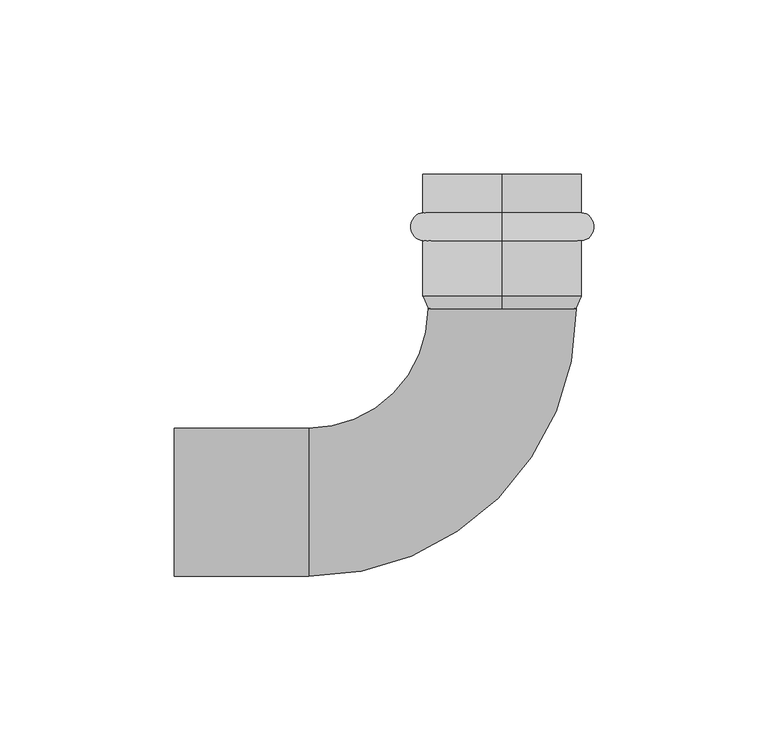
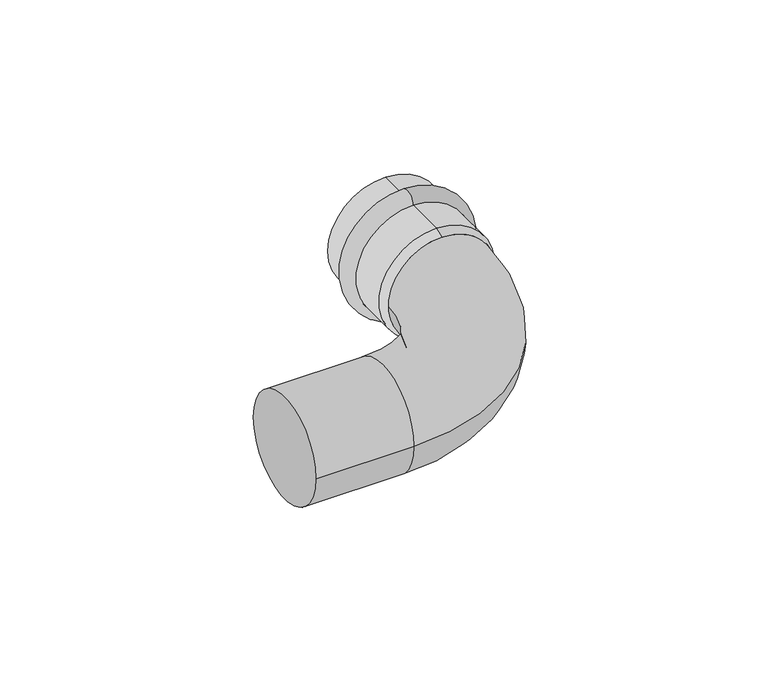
"""IFC4 building model written with IfcOpenShell, lengths in millimetres: pipe fitting geometry, РЕХАУ_Пресс Отвод-вставка : 42 x 90°."""

from ifc_helpers import new_model, si_unit, point, frame, origin, place, context, project, spatial, polyline, circle_curve, ellipse_curve, trimmed, source, transform, mapped, element, save
from ifc_brep_helpers import plane_surface, cylinder_surface, revolved_surface, advanced_brep


def pipe_fitting_0a2592f4(model_context):
    return source(origin(), model_context, "Body", "AdvancedBrep", [
        advanced_brep(
        [(94.0, 83.0, 22.75), (94.0, 83.0, -22.75), (94.0, 75.0, -22.75), (94.0, 75.0, 22.75)],
        [
            (0, 1, circle_curve(frame((94.0, 83.0, 0.0), z_axis=(0.0, 1.0, 0.0), x_axis=(0.0, 0.0, -1.0)), 22.75)),
            (1, 2),
            (2, 3, circle_curve(frame((94.0, 75.0, 0.0), z_axis=(0.0, -1.0, 0.0), x_axis=(0.0, 0.0, -1.0)), 22.75)),
            (3, 0),
            (1, 0, circle_curve(frame((94.0, 83.0, 0.0), z_axis=(0.0, 1.0, 0.0), x_axis=(0.0, 0.0, -1.0)), 22.75)),
            (3, 2, circle_curve(frame((94.0, 75.0, 0.0), z_axis=(0.0, -1.0, 0.0), x_axis=(0.0, 0.0, -1.0)), 22.75)),
            (2, 1, ellipse_curve(frame((94.0, 79.0, -22.75), z_axis=(1.0, 0.0, 0.0), x_axis=(0.0, 1.0, 0.0)), 4.0, 3.6)),
            (0, 3, ellipse_curve(frame((94.0, 79.0, 22.75), z_axis=(1.0, 0.0, 0.0), x_axis=(0.0, 1.0, 0.0)), 4.0, 3.6)),
        ],
        [
            revolved_surface(polyline([(94.0, 75.0, -22.75), (94.0, 83.0, -22.75)]), (94.0, 55.0, 0.0), (0.0, -1.0, 0.0)),
            revolved_surface(trimmed(ellipse_curve(frame((94.0, 79.0, -22.75), z_axis=(-1.0, 0.0, 0.0), x_axis=(0.0, 1.0, 0.0)), 4.0, 3.6), [point((94.0, 83.0, -22.75))], [point((94.0, 75.0, -22.75))], True, "CARTESIAN"), (94.0, 55.0, 0.0), (0.0, -1.0, 0.0)),
        ],
        [
            (0, [[1, 2, 3, 4]]),
            (0, [[5, -4, 6, -2]]),
            (1, [[-3, 7, -1, 8]]),
            (1, [[-6, -8, -5, -7]]),
        ],
    ),
        advanced_brep(
        [(94.0, 55.4662215, 21.25), (94.0, 55.4662215, -21.25), (94.0, 59.0, -22.75), (94.0, 59.0, 22.75), (94.0, 94.0, 21.25), (94.0, 94.0, -21.25), (94.0, 94.0, 22.75), (94.0, 94.0, -22.75)],
        [
            (0, 1, circle_curve(frame((94.0, 55.4662215, 0.0), z_axis=(0.0, 1.0, 0.0), x_axis=(0.0, 0.0, -1.0)), 21.25)),
            (1, 2),
            (2, 3, circle_curve(frame((94.0, 59.0, 0.0), z_axis=(0.0, -1.0, 0.0), x_axis=(0.0, 0.0, -1.0)), 22.75)),
            (3, 0),
            (1, 0, circle_curve(frame((94.0, 55.4662215, 0.0), z_axis=(0.0, 1.0, 0.0), x_axis=(0.0, 0.0, -1.0)), 21.25)),
            (3, 2, circle_curve(frame((94.0, 59.0, 0.0), z_axis=(0.0, -1.0, 0.0), x_axis=(0.0, 0.0, -1.0)), 22.75)),
            (4, 5, circle_curve(frame((94.0, 94.0, 0.0), z_axis=(0.0, 1.0, 0.0), x_axis=(0.0, 0.0, -1.0)), 21.25)),
            (5, 1),
            (0, 4),
            (5, 4, circle_curve(frame((94.0, 94.0, 0.0), z_axis=(0.0, 1.0, 0.0), x_axis=(0.0, 0.0, -1.0)), 21.25)),
            (6, 7, circle_curve(frame((94.0, 94.0, 0.0), z_axis=(0.0, 1.0, 0.0), x_axis=(0.0, 0.0, -1.0)), 22.75)),
            (7, 5),
            (4, 6),
            (7, 6, circle_curve(frame((94.0, 94.0, 0.0), z_axis=(0.0, 1.0, 0.0), x_axis=(0.0, 0.0, -1.0)), 22.75)),
            (2, 7),
            (6, 3),
        ],
        [
            revolved_surface(polyline([(94.0, 59.0, -22.75), (94.0, 55.4662215, -21.25)]), (94.0, 55.0, 0.0), (0.0, -1.0, 0.0)),
            revolved_surface(polyline([(94.0, 55.4662215, -21.25), (94.0, 94.0, -21.25)]), (94.0, 55.0, 0.0), (0.0, -1.0, 0.0)),
            plane_surface(frame((94.0, 94.0, 0.0), z_axis=(0.0, 1.0, 0.0), x_axis=(0.0, 0.0, -1.0))),
            cylinder_surface(frame((94.0, 55.0, 0.0), z_axis=(0.0, -1.0, 0.0), x_axis=(0.0, 0.0, -1.0)), 22.75),
        ],
        [
            (0, [[1, 2, 3, 4]]),
            (0, [[5, -4, 6, -2]]),
            (1, [[7, 8, -1, 9]]),
            (1, [[10, -9, -5, -8]]),
            (2, [[11, 12, -7, 13]]),
            (2, [[14, -13, -10, -12]]),
            (3, [[-3, 15, -11, 16]]),
            (3, [[-6, -16, -14, -15]]),
        ],
    ),
        advanced_brep(
        [(0.0, -21.25, 0.0), (0.0, 21.25, 0.0), (38.5337785, -21.25, 0.0), (38.5337785, 21.25, 0.0), (72.75, 55.4662215, 0.0), (115.25, 55.4662215, 0.0), (115.25, 59.0, 0.0), (72.75, 59.0, 0.0)],
        [
            (0, 1, circle_curve(frame((0.0, 0.0, 0.0), z_axis=(-1.0, 0.0, 0.0), x_axis=(0.0, 1.0, 0.0)), 21.25)),
            (1, 0, circle_curve(frame((0.0, 0.0, 0.0), z_axis=(-1.0, 0.0, 0.0), x_axis=(0.0, 1.0, 0.0)), 21.25)),
            (0, 2),
            (2, 3, circle_curve(frame((38.5337785, 0.0, 0.0), z_axis=(-1.0, 0.0, 0.0), x_axis=(0.0, 1.0, 0.0)), 21.25)),
            (3, 1),
            (3, 2, circle_curve(frame((38.5337785, 0.0, 0.0), z_axis=(-1.0, 0.0, 0.0), x_axis=(0.0, 1.0, 0.0)), 21.25)),
            (4, 3, circle_curve(frame((38.5337785, 55.4662215, 0.0), z_axis=(0.0, 0.0, -1.0), x_axis=(0.0, -1.0, 0.0)), 34.2162215)),
            (2, 5, circle_curve(frame((38.5337785, 55.4662215, 0.0), z_axis=(0.0, 0.0, 1.0), x_axis=(0.0, -1.0, 0.0)), 76.7162215)),
            (5, 4, circle_curve(frame((94.0, 55.4662215, 0.0), z_axis=(0.0, -1.0, 0.0), x_axis=(-1.0, 0.0, 0.0)), 21.25)),
            (4, 5, circle_curve(frame((94.0, 55.4662215, 0.0), z_axis=(0.0, -1.0, 0.0), x_axis=(-1.0, 0.0, 0.0)), 21.25)),
            (6, 7, circle_curve(frame((94.0, 59.0, 0.0), z_axis=(0.0, 1.0, 0.0), x_axis=(-1.0, 0.0, 0.0)), 21.25)),
            (7, 6, circle_curve(frame((94.0, 59.0, 0.0), z_axis=(0.0, 1.0, 0.0), x_axis=(-1.0, 0.0, 0.0)), 21.25)),
            (5, 6),
            (7, 4),
        ],
        [
            plane_surface(frame((0.0, 0.0, 0.0), z_axis=(-1.0, 0.0, 0.0), x_axis=(0.0, 0.0, 1.0))),
            cylinder_surface(frame((0.0, 0.0, 0.0), z_axis=(-1.0, 0.0, 0.0), x_axis=(0.0, 1.0, 0.0)), 21.25),
            revolved_surface(trimmed(ellipse_curve(frame((38.5337785, 0.0, 0.0), z_axis=(-1.0, 0.0, 0.0), x_axis=(0.0, 1.0, 0.0)), 21.25, 21.25), [point((38.5337785, -21.25, 0.0))], [point((38.5337785, 21.25, 0.0))], True, "CARTESIAN"), (38.5337785, 55.4662215, 0.0), (0.0, 0.0, 1.0)),
            revolved_surface(trimmed(ellipse_curve(frame((38.5337785, 0.0, 0.0), z_axis=(-1.0, 0.0, 0.0), x_axis=(0.0, 1.0, 0.0)), 21.25, 21.25), [point((38.5337785, 21.25, 0.0))], [point((38.5337785, -21.25, 0.0))], True, "CARTESIAN"), (38.5337785, 55.4662215, 0.0), (0.0, 0.0, 1.0)),
            plane_surface(frame((94.0, 59.0, 0.0), z_axis=(0.0, 1.0, 0.0), x_axis=(0.0, 0.0, 1.0))),
            cylinder_surface(frame((94.0, 55.4662215, 0.0), z_axis=(0.0, -1.0, 0.0), x_axis=(-1.0, 0.0, 0.0)), 21.25),
        ],
        [
            (0, [[1, 2]]),
            (1, [[-1, 3, 4, 5]]),
            (1, [[-2, -5, 6, -3]]),
            (2, [[7, -4, 8, 9]]),
            (3, [[-8, -6, -7, 10]]),
            (4, [[11, 12]]),
            (5, [[-9, 13, -12, 14]]),
            (5, [[-10, -14, -11, -13]]),
        ],
    ),
    ])


if __name__ == "__main__":
    model = new_model("IFC4")
    model_context = context("Model", 3, world=origin())
    ifc_project = project(units=[si_unit("LENGTHUNIT", "METRE", prefix="MILLI")], contexts=[model_context])
    site = spatial("IfcSite", under=ifc_project)
    building = spatial("IfcBuilding", under=site)
    placement = place(None, origin())
    pipe_fitting_shape = pipe_fitting_0a2592f4(model_context)
    element("IfcPipeFitting", 1, ObjectType="РЕХАУ_Пресс Отвод-вставка : 42 x 90°", at=placement, inside=building, context=model_context, shape_type="MappedRepresentation", body=[
        mapped(pipe_fitting_shape, transform((0.0, 0.0, 0.0), x_axis=(1.0, 0.0, 0.0), y_axis=(0.0, 1.0, 0.0), z_axis=(0.0, 0.0, 1.0))),
    ])
    save(model, "model.ifc")
